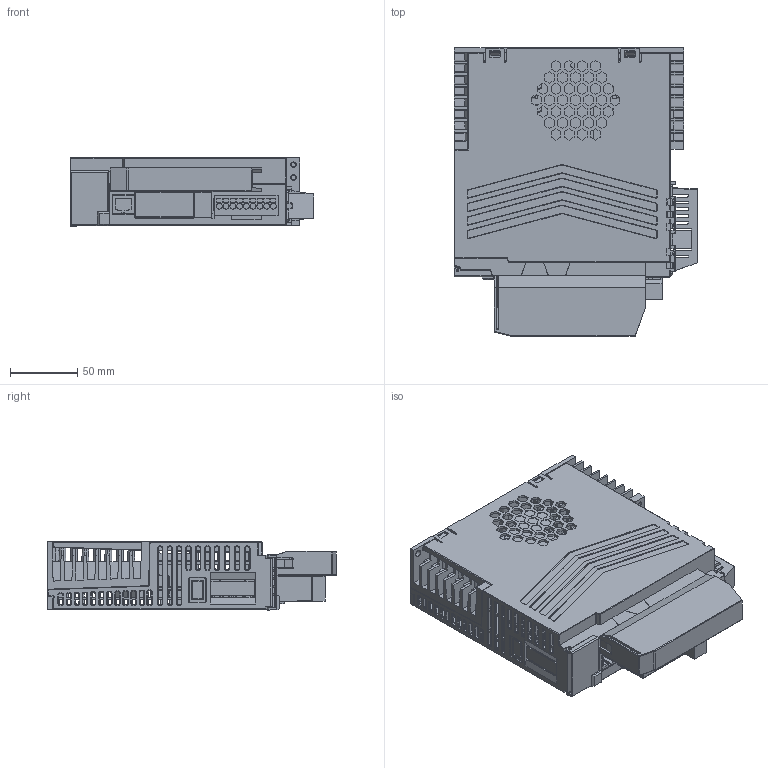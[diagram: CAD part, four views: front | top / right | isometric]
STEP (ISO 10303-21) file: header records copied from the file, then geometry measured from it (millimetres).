
FILE_DESCRIPTION((''),'2;1');
FILE_NAME('220V35A_700S_TOP_ASM_15_ASM','2021-12-17T',('Cyclone_Aero15X'),(''),'PRO/ENGINEER BY PARAMETRIC TECHNOLOGY CORPORATION, 2010280','PRO/ENGINEER BY PARAMETRIC TECHNOLOGY CORPORATION, 2010280','');
FILE_SCHEMA(('CONFIG_CONTROL_DESIGN'));
Products named in the file (60): 220V35A_700S_HEATSINK_8; MANIFOLD_SOLID_BREP_24767; MANIFOLD_SOLID_BREP_24921; 220V25A35A_700S_CPUIGBTBD_2_ASM; RJ45_2POS_9; DB26_6; MANIFOLD_SOLID_BREP_36755; MANIFOLD_SOLID_BREP_37046; _3E106-2230KV_IGS_6; 3E106-2230KV_IGS_6_ASM; P5_9PIN_POWERPORT_3; NGSS-400W-HMIPART_36; NGSS-400W-DISPLAY_6; BUTN_LONG_4X4X3P8_7; NGSS-400W-DISPLAYBD_ASM_3_ASM; RJ45_1POS_7; SIDELED_7; 220V25A35A_700S_CPUIGBTBD_ASM_2_ASM; 220V35A_700S_SHELL_7; NGSS-400W-COVER_9; BAT_BOX_UP2_5; BD_ADPT_2_6; ADAPTOR_TEMINAL_2_6; MANIFOLD_SOLID_BREP_192203; MANIFOLD_SOLID_BREP_192291; MANIFOLD_SOLID_BREP_192379; MANIFOLD_SOLID_BREP_192467; MANIFOLD_SOLID_BREP_192555; MANIFOLD_SOLID_BREP_192643; MANIFOLD_SOLID_BREP_192731; MANIFOLD_SOLID_BREP_192819; MANIFOLD_SOLID_BREP_192907; MANIFOLD_SOLID_BREP_192995; MANIFOLD_SOLID_BREP_193083; MANIFOLD_SOLID_BREP_193171; MANIFOLD_SOLID_BREP_193259; MANIFOLD_SOLID_BREP_193347; MANIFOLD_SOLID_BREP_193435; MANIFOLD_SOLID_BREP_193523; MANIFOLD_SOLID_BREP_193611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
Assembly tree (63 placements, depth 4):
  220V35A_700S_TOP_ASM_15_ASM
    220V35A_700S_HEATSINK_8
    220V25A35A_700S_CPUIGBTBD_ASM_2_ASM
      220V25A35A_700S_CPUIGBTBD_2_ASM
        MANIFOLD_SOLID_BREP_24767
        MANIFOLD_SOLID_BREP_24921
      RJ45_2POS_9
      DB26_6
      3E106-2230KV_IGS_6_ASM
        MANIFOLD_SOLID_BREP_36755
        MANIFOLD_SOLID_BREP_37046
        _3E106-2230KV_IGS_6
      P5_9PIN_POWERPORT_3
      NGSS-400W-DISPLAYBD_ASM_3_ASM
        NGSS-400W-HMIPART_36
        NGSS-400W-DISPLAY_6
        BUTN_LONG_4X4X3P8_7  x4
      RJ45_1POS_7
      SIDELED_7
    220V35A_700S_SHELL_7
    NGSS-400W-COVER_9
    BAT_BOX_UP2_5
    BD_ADPT_2_ASM_9_ASM
      BD_ADPT_2_6
      ADAPTOR_TEMINAL_2_6
      DB26_SOCKET_90D_MALE_8_ASM
        MANIFOLD_SOLID_BREP_192203
        MANIFOLD_SOLID_BREP_192291
        MANIFOLD_SOLID_BREP_192379
        MANIFOLD_SOLID_BREP_192467
        MANIFOLD_SOLID_BREP_192555
        MANIFOLD_SOLID_BREP_192643
        MANIFOLD_SOLID_BREP_192731
        MANIFOLD_SOLID_BREP_192819
        MANIFOLD_SOLID_BREP_192907
        MANIFOLD_SOLID_BREP_192995
        MANIFOLD_SOLID_BREP_193083
        MANIFOLD_SOLID_BREP_193171
        MANIFOLD_SOLID_BREP_193259
        MANIFOLD_SOLID_BREP_193347
        MANIFOLD_SOLID_BREP_193435
        MANIFOLD_SOLID_BREP_193523
        MANIFOLD_SOLID_BREP_193611
        MANIFOLD_SOLID_BREP_193699
        MANIFOLD_SOLID_BREP_193787
        MANIFOLD_SOLID_BREP_193875
        MANIFOLD_SOLID_BREP_193963
        MANIFOLD_SOLID_BREP_194051
        MANIFOLD_SOLID_BREP_194139
        MANIFOLD_SOLID_BREP_194227
        MANIFOLD_SOLID_BREP_194315
        MANIFOLD_SOLID_BREP_194403
        MANIFOLD_SOLID_BREP_194491
      PAD_2_6
      IO_GADGET_5
      HDBPLUGINSCREW_8  x2
    PLUG_IEEE1394_3
    P5_9P_PLUGIN_2
    TMN_SHD3_9
    PMMA_6
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Bounding box: 180.5 x 214 x 50.49 mm (x, y, z)
Volume: 465089 mm3; surface area: 372879.1 mm2
Topology: 56 solids, 76 shells, 6197 faces, 16606 edges, 10644 vertices
Faces by surface type: plane 4218, cylinder 1436, cone 341, bspline 101, torus 65, sphere 36
Entity records: 197024 total; most frequent: CARTESIAN_POINT 45000, ORIENTED_EDGE 31833, DIRECTION 30019, EDGE_CURVE 16066, VECTOR 12305, LINE 12305, VERTEX_POINT 10318, AXIS2_PLACEMENT_3D 8857
